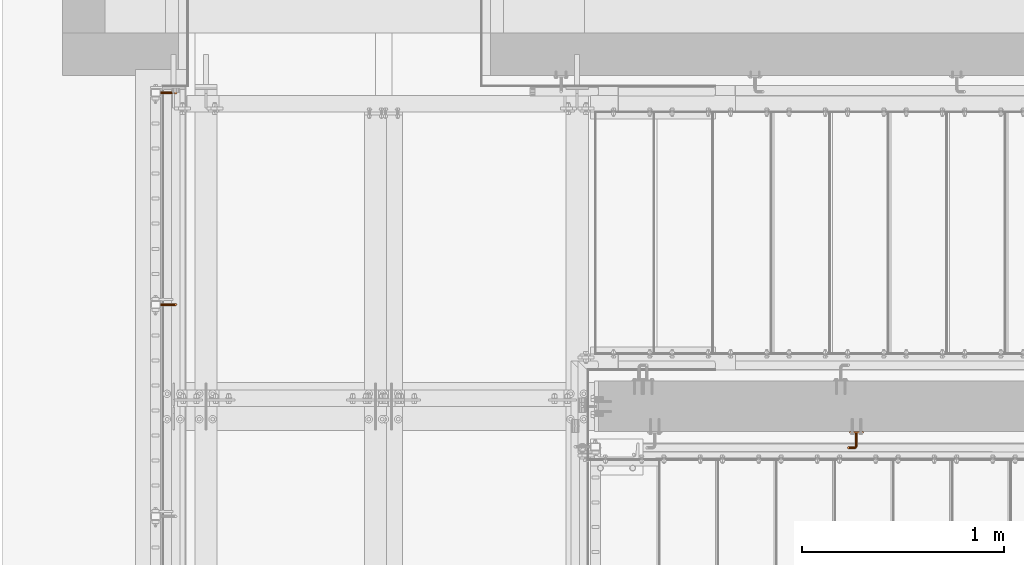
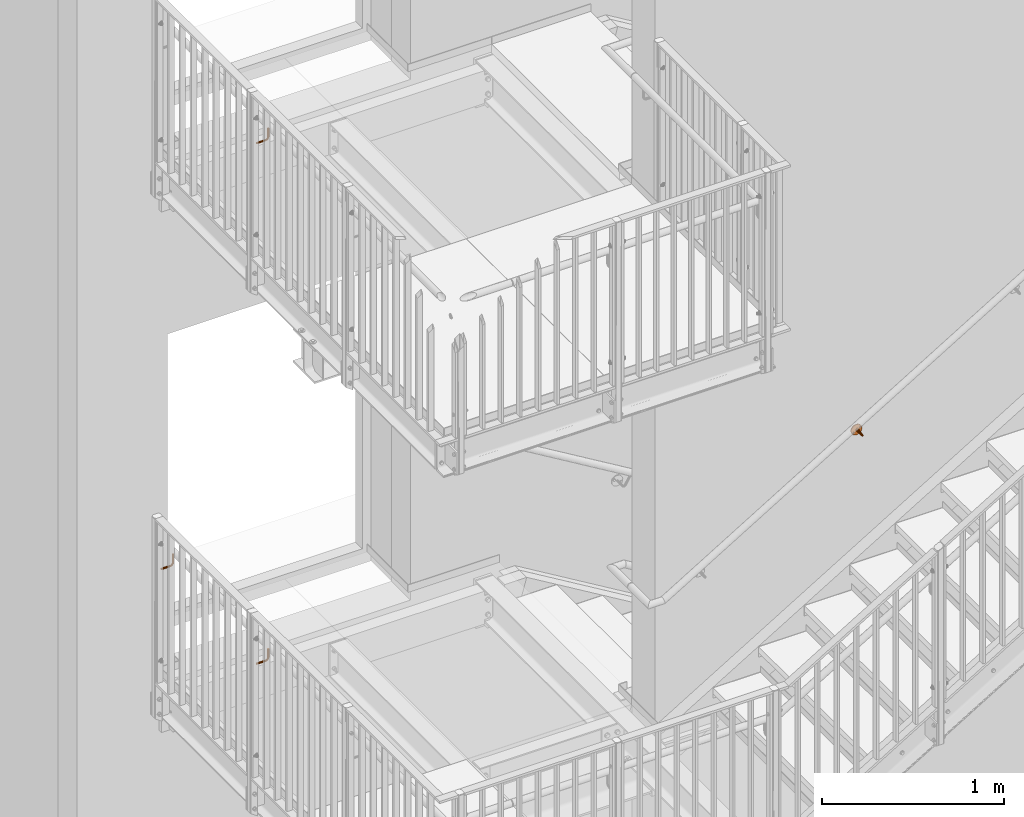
# One storey, part 376 of 410: 4 proxies.
"""IFC2X3 building model written with IfcOpenShell, lengths in millimetres."""

from ifc_helpers import new_model, entity, si_unit, converted_unit, origin_with_axes, place, context, project, spatial, faceted_brep, element, save


model = new_model("IFC2X3")

# Units and contexts
model_context = context("Model", 3, precision=1e-09, world=origin_with_axes())
ifc_project = project(units=[si_unit("LENGTHUNIT", "METRE", prefix="MILLI"), si_unit("AREAUNIT", "SQUARE_METRE"), si_unit("VOLUMEUNIT", "CUBIC_METRE"), converted_unit("PLANEANGLEUNIT", "DEGREE", entity("IfcPlaneAngleMeasure", 0.01745329), si_unit("PLANEANGLEUNIT", "RADIAN"), dimensions=[0, 0, 0, 0, 0, 0, 0])], contexts=[model_context])

# Site, building, storey
site_placement = place(None, origin_with_axes())
site = spatial("IfcSite", under=ifc_project, at=site_placement, Name="mKR Teilneubau & Sanierung BA1 - Ostfildern", CompositionType="ELEMENT")
building_placement = place(site_placement, origin_with_axes())
building = spatial("IfcBuilding", under=site, at=building_placement, Name="Struktur 1", CompositionType="ELEMENT")
storey_placement = place(building_placement, origin_with_axes())
storey = spatial("IfcBuildingStorey", under=building, at=storey_placement, Name="Default Storey", CompositionType="ELEMENT", Elevation=0.0)

# Proxies
proxy_1_placement = place(None, origin_with_axes())
element("IfcBuildingElementProxy", 1, at=proxy_1_placement, inside=storey, ObjectType="-", context=model_context, shape_type="Brep", body=[
    faceted_brep([(-3817.9485317, 17484.999999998, 4738.6), (-3874.9485317, 17484.999999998, 4738.6), (-3874.9485317, 17481.999999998, 4737.796152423), (-3817.9485317, 17481.999999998, 4737.796152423), (-3874.9485317, 17490.19615242, 4729.6), (-3874.9485317, 17487.999999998, 4727.403847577), (-3874.9485317, 17484.999999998, 4726.6), (-3874.9485317, 17481.999999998, 4727.403847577), (-3874.9485317, 17479.803847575, 4729.6), (-3874.9485317, 17478.999999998, 4732.6), (-3874.9485317, 17479.803847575, 4735.6), (-3874.9485317, 17487.999999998, 4737.796152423), (-3874.9485317, 17490.19615242, 4735.6), (-3874.9485317, 17490.999999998, 4732.6), (-3817.9485317, 17487.999999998, 4737.796152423), (-3813.048711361, 17481.999999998, 4738.770787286), (-3813.356330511, 17484.999999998, 4739.51344561), (-3817.9485317, 17479.803847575, 4735.6), (-3813.048711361, 17487.999999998, 4738.770787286), (-3809.463250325, 17484.999999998, 4742.114718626), (-3808.894844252, 17487.999999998, 4741.546312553), (-3808.894844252, 17481.999999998, 4741.546312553), (-3812.208280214, 17479.803847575, 4736.741807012), (-3817.9485317, 17490.19615242, 4735.6), (-3806.861977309, 17484.999999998, 4746.007798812), (-3806.119318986, 17487.999999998, 4745.700179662), (-3805.144684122, 17487.999999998, 4750.6), (-3805.144684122, 17487.999999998, 4807.6), (-3802.9485317, 17490.19615242, 4807.6), (-3802.9485317, 17490.19615242, 4750.6), (-3805.9485317, 17484.999999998, 4750.6), (-3805.9485317, 17484.999999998, 4807.6), (-3817.9485317, 17478.999999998, 4732.6), (-3804.090338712, 17490.19615242, 4744.859748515), (-3812.208280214, 17490.19615242, 4736.741807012), (-3807.341929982, 17490.19615242, 4739.993398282), (-3796.9485317, 17479.803847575, 4807.6), (-3794.752379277, 17481.999999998, 4807.6), (-3793.9485317, 17484.999999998, 4807.6), (-3794.752379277, 17487.999999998, 4807.6), (-3796.9485317, 17490.19615242, 4807.6), (-3799.9485317, 17490.999999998, 4807.6), (-3805.144684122, 17481.999999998, 4807.6), (-3802.9485317, 17479.803847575, 4807.6), (-3799.9485317, 17478.999999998, 4807.6), (-3806.119318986, 17481.999999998, 4745.700179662), (-3811.060229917, 17478.999999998, 4733.970168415), (-3807.341929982, 17479.803847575, 4739.993398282), (-3817.9485317, 17490.999999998, 4732.6), (-3799.9485317, 17490.999999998, 4750.6), (-3805.144684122, 17481.999999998, 4750.6), (-3817.9485317, 17479.803847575, 4729.6), (-3801.318700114, 17490.999999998, 4743.711698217), (-3811.060229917, 17490.999999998, 4733.970168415), (-3805.220609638, 17490.999999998, 4737.872077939), (-3804.090338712, 17479.803847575, 4744.859748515), (-3809.91217962, 17479.803847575, 4731.198529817), (-3805.220609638, 17478.999999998, 4737.872077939), (-3817.9485317, 17481.999999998, 4727.403847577), (-3817.9485317, 17484.999999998, 4726.6), (-3817.9485317, 17487.999999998, 4727.403847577), (-3817.9485317, 17490.19615242, 4729.6), (-3796.9485317, 17490.19615242, 4750.6), (-3802.9485317, 17479.803847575, 4750.6), (-3798.547061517, 17490.19615242, 4742.56364792), (-3809.91217962, 17490.19615242, 4731.198529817), (-3803.099289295, 17490.19615242, 4735.750757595), (-3801.318700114, 17478.999999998, 4743.711698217), (-3809.071748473, 17481.999999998, 4729.169549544), (-3803.099289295, 17479.803847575, 4735.750757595), (-3808.764129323, 17484.999999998, 4728.42689122), (-3809.071748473, 17487.999999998, 4729.169549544), (-3794.752379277, 17487.999999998, 4750.6), (-3799.9485317, 17478.999999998, 4750.6), (-3796.518081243, 17487.999999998, 4741.723216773), (-3801.546375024, 17487.999999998, 4734.197843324), (-3798.547061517, 17479.803847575, 4742.56364792), (-3801.546375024, 17481.999999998, 4734.197843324), (-3793.9485317, 17484.999999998, 4750.6), (-3800.977968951, 17484.999999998, 4733.629437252), (-3796.9485317, 17479.803847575, 4750.6), (-3795.775422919, 17484.999999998, 4741.415597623), (-3796.518081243, 17481.999999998, 4741.723216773), (-3794.752379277, 17481.999999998, 4750.6)], [[[0, 1, 2, 3]], [[4, 5, 6, 7, 8, 9, 10, 2, 1, 11, 12, 13]], [[1, 0, 14, 11]], [[0, 3, 15, 16]], [[3, 2, 10, 17]], [[16, 18, 14, 0]], [[19, 20, 18, 16]], [[16, 15, 21, 19]], [[3, 17, 22, 15]], [[11, 14, 23, 12]], [[20, 19, 24, 25]], [[26, 27, 28, 29]], [[27, 26, 30, 31]], [[17, 10, 9, 32]], [[26, 29, 33, 25]], [[18, 34, 23, 14]], [[20, 35, 34, 18]], [[25, 33, 35, 20]], [[36, 37, 38, 39, 40, 41, 28, 27, 31, 42, 43, 44]], [[25, 24, 30, 26]], [[19, 21, 45, 24]], [[17, 32, 46, 22]], [[15, 22, 47, 21]], [[12, 23, 48, 13]], [[29, 28, 41, 49]], [[31, 30, 50, 42]], [[32, 9, 8, 51]], [[29, 49, 52, 33]], [[34, 53, 48, 23]], [[35, 54, 53, 34]], [[33, 52, 54, 35]], [[24, 45, 50, 30]], [[21, 47, 55, 45]], [[32, 51, 56, 46]], [[22, 46, 57, 47]], [[7, 58, 51, 8]], [[6, 59, 58, 7]], [[5, 60, 59, 6]], [[4, 61, 60, 5]], [[13, 48, 61, 4]], [[49, 41, 40, 62]], [[42, 50, 63, 43]], [[49, 62, 64, 52]], [[53, 65, 61, 48]], [[54, 66, 65, 53]], [[52, 64, 66, 54]], [[45, 55, 63, 50]], [[47, 57, 67, 55]], [[51, 58, 68, 56]], [[46, 56, 69, 57]], [[58, 59, 70, 68]], [[59, 60, 71, 70]], [[60, 61, 65, 71]], [[62, 40, 39, 72]], [[43, 63, 73, 44]], [[62, 72, 74, 64]], [[66, 75, 71, 65]], [[64, 74, 75, 66]], [[55, 67, 73, 63]], [[57, 69, 76, 67]], [[56, 68, 77, 69]], [[72, 39, 38, 78]], [[68, 70, 79, 77]], [[70, 71, 75, 79]], [[44, 73, 80, 36]], [[72, 78, 81, 74]], [[74, 81, 79, 75]], [[67, 76, 80, 73]], [[69, 77, 82, 76]], [[78, 38, 37, 83]], [[77, 79, 81, 82]], [[36, 80, 83, 37]], [[78, 83, 82, 81]], [[76, 82, 83, 80]]]),
])
proxy_2_placement = place(None, origin_with_axes())
element("IfcBuildingElementProxy", 2, at=proxy_2_placement, inside=storey, ObjectType="-", context=model_context, shape_type="Brep", body=[
    faceted_brep([(-3817.9485317, 18534.999999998, 4738.6), (-3874.9485317, 18534.999999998, 4738.6), (-3874.9485317, 18531.999999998, 4737.796152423), (-3817.9485317, 18531.999999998, 4737.796152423), (-3874.9485317, 18540.19615242, 4729.6), (-3874.9485317, 18537.999999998, 4727.403847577), (-3874.9485317, 18534.999999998, 4726.6), (-3874.9485317, 18531.999999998, 4727.403847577), (-3874.9485317, 18529.803847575, 4729.6), (-3874.9485317, 18528.999999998, 4732.6), (-3874.9485317, 18529.803847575, 4735.6), (-3874.9485317, 18537.999999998, 4737.796152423), (-3874.9485317, 18540.19615242, 4735.6), (-3874.9485317, 18540.999999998, 4732.6), (-3817.9485317, 18537.999999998, 4737.796152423), (-3813.048711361, 18531.999999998, 4738.770787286), (-3813.356330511, 18534.999999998, 4739.51344561), (-3817.9485317, 18529.803847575, 4735.6), (-3813.048711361, 18537.999999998, 4738.770787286), (-3809.463250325, 18534.999999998, 4742.114718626), (-3808.894844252, 18537.999999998, 4741.546312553), (-3808.894844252, 18531.999999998, 4741.546312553), (-3812.208280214, 18529.803847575, 4736.741807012), (-3817.9485317, 18540.19615242, 4735.6), (-3806.861977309, 18534.999999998, 4746.007798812), (-3806.119318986, 18537.999999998, 4745.700179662), (-3805.144684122, 18537.999999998, 4750.6), (-3805.144684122, 18537.999999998, 4807.6), (-3802.9485317, 18540.19615242, 4807.6), (-3802.9485317, 18540.19615242, 4750.6), (-3805.9485317, 18534.999999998, 4750.6), (-3805.9485317, 18534.999999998, 4807.6), (-3817.9485317, 18528.999999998, 4732.6), (-3804.090338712, 18540.19615242, 4744.859748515), (-3812.208280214, 18540.19615242, 4736.741807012), (-3807.341929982, 18540.19615242, 4739.993398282), (-3796.9485317, 18529.803847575, 4807.6), (-3794.752379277, 18531.999999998, 4807.6), (-3793.9485317, 18534.999999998, 4807.6), (-3794.752379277, 18537.999999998, 4807.6), (-3796.9485317, 18540.19615242, 4807.6), (-3799.9485317, 18540.999999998, 4807.6), (-3805.144684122, 18531.999999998, 4807.6), (-3802.9485317, 18529.803847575, 4807.6), (-3799.9485317, 18528.999999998, 4807.6), (-3806.119318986, 18531.999999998, 4745.700179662), (-3811.060229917, 18528.999999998, 4733.970168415), (-3807.341929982, 18529.803847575, 4739.993398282), (-3817.9485317, 18540.999999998, 4732.6), (-3799.9485317, 18540.999999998, 4750.6), (-3805.144684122, 18531.999999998, 4750.6), (-3817.9485317, 18529.803847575, 4729.6), (-3801.318700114, 18540.999999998, 4743.711698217), (-3811.060229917, 18540.999999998, 4733.970168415), (-3805.220609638, 18540.999999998, 4737.872077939), (-3804.090338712, 18529.803847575, 4744.859748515), (-3809.91217962, 18529.803847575, 4731.198529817), (-3805.220609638, 18528.999999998, 4737.872077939), (-3817.9485317, 18531.999999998, 4727.403847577), (-3817.9485317, 18534.999999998, 4726.6), (-3817.9485317, 18537.999999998, 4727.403847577), (-3817.9485317, 18540.19615242, 4729.6), (-3796.9485317, 18540.19615242, 4750.6), (-3802.9485317, 18529.803847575, 4750.6), (-3798.547061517, 18540.19615242, 4742.56364792), (-3809.91217962, 18540.19615242, 4731.198529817), (-3803.099289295, 18540.19615242, 4735.750757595), (-3801.318700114, 18528.999999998, 4743.711698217), (-3809.071748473, 18531.999999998, 4729.169549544), (-3803.099289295, 18529.803847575, 4735.750757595), (-3808.764129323, 18534.999999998, 4728.42689122), (-3809.071748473, 18537.999999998, 4729.169549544), (-3794.752379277, 18537.999999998, 4750.6), (-3799.9485317, 18528.999999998, 4750.6), (-3796.518081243, 18537.999999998, 4741.723216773), (-3801.546375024, 18537.999999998, 4734.197843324), (-3798.547061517, 18529.803847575, 4742.56364792), (-3801.546375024, 18531.999999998, 4734.197843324), (-3793.9485317, 18534.999999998, 4750.6), (-3800.977968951, 18534.999999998, 4733.629437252), (-3796.9485317, 18529.803847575, 4750.6), (-3795.775422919, 18534.999999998, 4741.415597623), (-3796.518081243, 18531.999999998, 4741.723216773), (-3794.752379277, 18531.999999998, 4750.6)], [[[0, 1, 2, 3]], [[4, 5, 6, 7, 8, 9, 10, 2, 1, 11, 12, 13]], [[1, 0, 14, 11]], [[0, 3, 15, 16]], [[3, 2, 10, 17]], [[16, 18, 14, 0]], [[19, 20, 18, 16]], [[16, 15, 21, 19]], [[3, 17, 22, 15]], [[11, 14, 23, 12]], [[20, 19, 24, 25]], [[26, 27, 28, 29]], [[27, 26, 30, 31]], [[17, 10, 9, 32]], [[26, 29, 33, 25]], [[18, 34, 23, 14]], [[20, 35, 34, 18]], [[25, 33, 35, 20]], [[36, 37, 38, 39, 40, 41, 28, 27, 31, 42, 43, 44]], [[25, 24, 30, 26]], [[19, 21, 45, 24]], [[17, 32, 46, 22]], [[15, 22, 47, 21]], [[12, 23, 48, 13]], [[29, 28, 41, 49]], [[31, 30, 50, 42]], [[32, 9, 8, 51]], [[29, 49, 52, 33]], [[34, 53, 48, 23]], [[35, 54, 53, 34]], [[33, 52, 54, 35]], [[24, 45, 50, 30]], [[21, 47, 55, 45]], [[32, 51, 56, 46]], [[22, 46, 57, 47]], [[7, 58, 51, 8]], [[6, 59, 58, 7]], [[5, 60, 59, 6]], [[4, 61, 60, 5]], [[13, 48, 61, 4]], [[49, 41, 40, 62]], [[42, 50, 63, 43]], [[49, 62, 64, 52]], [[53, 65, 61, 48]], [[54, 66, 65, 53]], [[52, 64, 66, 54]], [[45, 55, 63, 50]], [[47, 57, 67, 55]], [[51, 58, 68, 56]], [[46, 56, 69, 57]], [[58, 59, 70, 68]], [[59, 60, 71, 70]], [[60, 61, 65, 71]], [[62, 40, 39, 72]], [[43, 63, 73, 44]], [[62, 72, 74, 64]], [[66, 75, 71, 65]], [[64, 74, 75, 66]], [[55, 67, 73, 63]], [[57, 69, 76, 67]], [[56, 68, 77, 69]], [[72, 39, 38, 78]], [[68, 70, 79, 77]], [[70, 71, 75, 79]], [[44, 73, 80, 36]], [[72, 78, 81, 74]], [[74, 81, 79, 75]], [[67, 76, 80, 73]], [[69, 77, 82, 76]], [[78, 38, 37, 83]], [[77, 79, 81, 82]], [[36, 80, 83, 37]], [[78, 83, 82, 81]], [[76, 82, 83, 80]]]),
])
proxy_3_placement = place(None, origin_with_axes())
element("IfcBuildingElementProxy", 3, at=proxy_3_placement, inside=storey, ObjectType="-", context=model_context, shape_type="Brep", body=[
    faceted_brep([(-3817.9485317, 17484.999999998, 8238.6), (-3874.9485317, 17484.999999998, 8238.6), (-3874.9485317, 17481.999999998, 8237.796152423), (-3817.9485317, 17481.999999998, 8237.796152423), (-3874.9485317, 17490.19615242, 8229.6), (-3874.9485317, 17487.999999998, 8227.403847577), (-3874.9485317, 17484.999999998, 8226.6), (-3874.9485317, 17481.999999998, 8227.403847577), (-3874.9485317, 17479.803847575, 8229.6), (-3874.9485317, 17478.999999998, 8232.6), (-3874.9485317, 17479.803847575, 8235.6), (-3874.9485317, 17487.999999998, 8237.796152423), (-3874.9485317, 17490.19615242, 8235.6), (-3874.9485317, 17490.999999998, 8232.6), (-3817.9485317, 17487.999999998, 8237.796152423), (-3813.048711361, 17481.999999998, 8238.770787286), (-3813.356330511, 17484.999999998, 8239.51344561), (-3817.9485317, 17479.803847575, 8235.6), (-3813.048711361, 17487.999999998, 8238.770787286), (-3809.463250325, 17484.999999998, 8242.114718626), (-3808.894844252, 17487.999999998, 8241.546312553), (-3808.894844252, 17481.999999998, 8241.546312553), (-3812.208280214, 17479.803847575, 8236.741807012), (-3817.9485317, 17490.19615242, 8235.6), (-3806.861977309, 17484.999999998, 8246.007798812), (-3806.119318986, 17487.999999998, 8245.700179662), (-3805.144684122, 17487.999999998, 8250.6), (-3805.144684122, 17487.999999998, 8307.6), (-3802.9485317, 17490.19615242, 8307.6), (-3802.9485317, 17490.19615242, 8250.6), (-3805.9485317, 17484.999999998, 8250.6), (-3805.9485317, 17484.999999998, 8307.6), (-3817.9485317, 17478.999999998, 8232.6), (-3804.090338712, 17490.19615242, 8244.859748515), (-3812.208280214, 17490.19615242, 8236.741807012), (-3807.341929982, 17490.19615242, 8239.993398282), (-3796.9485317, 17479.803847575, 8307.6), (-3794.752379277, 17481.999999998, 8307.6), (-3793.9485317, 17484.999999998, 8307.6), (-3794.752379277, 17487.999999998, 8307.6), (-3796.9485317, 17490.19615242, 8307.6), (-3799.9485317, 17490.999999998, 8307.6), (-3805.144684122, 17481.999999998, 8307.6), (-3802.9485317, 17479.803847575, 8307.6), (-3799.9485317, 17478.999999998, 8307.6), (-3806.119318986, 17481.999999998, 8245.700179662), (-3811.060229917, 17478.999999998, 8233.970168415), (-3807.341929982, 17479.803847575, 8239.993398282), (-3817.9485317, 17490.999999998, 8232.6), (-3799.9485317, 17490.999999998, 8250.6), (-3805.144684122, 17481.999999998, 8250.6), (-3817.9485317, 17479.803847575, 8229.6), (-3801.318700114, 17490.999999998, 8243.711698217), (-3811.060229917, 17490.999999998, 8233.970168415), (-3805.220609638, 17490.999999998, 8237.872077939), (-3804.090338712, 17479.803847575, 8244.859748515), (-3809.91217962, 17479.803847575, 8231.198529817), (-3805.220609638, 17478.999999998, 8237.872077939), (-3817.9485317, 17481.999999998, 8227.403847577), (-3817.9485317, 17484.999999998, 8226.6), (-3817.9485317, 17487.999999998, 8227.403847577), (-3817.9485317, 17490.19615242, 8229.6), (-3796.9485317, 17490.19615242, 8250.6), (-3802.9485317, 17479.803847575, 8250.6), (-3798.547061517, 17490.19615242, 8242.56364792), (-3809.91217962, 17490.19615242, 8231.198529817), (-3803.099289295, 17490.19615242, 8235.750757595), (-3801.318700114, 17478.999999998, 8243.711698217), (-3809.071748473, 17481.999999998, 8229.169549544), (-3803.099289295, 17479.803847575, 8235.750757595), (-3808.764129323, 17484.999999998, 8228.42689122), (-3809.071748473, 17487.999999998, 8229.169549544), (-3794.752379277, 17487.999999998, 8250.6), (-3799.9485317, 17478.999999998, 8250.6), (-3796.518081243, 17487.999999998, 8241.723216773), (-3801.546375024, 17487.999999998, 8234.197843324), (-3798.547061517, 17479.803847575, 8242.56364792), (-3801.546375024, 17481.999999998, 8234.197843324), (-3793.9485317, 17484.999999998, 8250.6), (-3800.977968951, 17484.999999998, 8233.629437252), (-3796.9485317, 17479.803847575, 8250.6), (-3795.775422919, 17484.999999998, 8241.415597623), (-3796.518081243, 17481.999999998, 8241.723216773), (-3794.752379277, 17481.999999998, 8250.6)], [[[0, 1, 2, 3]], [[4, 5, 6, 7, 8, 9, 10, 2, 1, 11, 12, 13]], [[1, 0, 14, 11]], [[0, 3, 15, 16]], [[3, 2, 10, 17]], [[16, 18, 14, 0]], [[19, 20, 18, 16]], [[16, 15, 21, 19]], [[3, 17, 22, 15]], [[11, 14, 23, 12]], [[20, 19, 24, 25]], [[26, 27, 28, 29]], [[27, 26, 30, 31]], [[17, 10, 9, 32]], [[26, 29, 33, 25]], [[18, 34, 23, 14]], [[20, 35, 34, 18]], [[25, 33, 35, 20]], [[36, 37, 38, 39, 40, 41, 28, 27, 31, 42, 43, 44]], [[25, 24, 30, 26]], [[19, 21, 45, 24]], [[17, 32, 46, 22]], [[15, 22, 47, 21]], [[12, 23, 48, 13]], [[29, 28, 41, 49]], [[31, 30, 50, 42]], [[32, 9, 8, 51]], [[29, 49, 52, 33]], [[34, 53, 48, 23]], [[35, 54, 53, 34]], [[33, 52, 54, 35]], [[24, 45, 50, 30]], [[21, 47, 55, 45]], [[32, 51, 56, 46]], [[22, 46, 57, 47]], [[7, 58, 51, 8]], [[6, 59, 58, 7]], [[5, 60, 59, 6]], [[4, 61, 60, 5]], [[13, 48, 61, 4]], [[49, 41, 40, 62]], [[42, 50, 63, 43]], [[49, 62, 64, 52]], [[53, 65, 61, 48]], [[54, 66, 65, 53]], [[52, 64, 66, 54]], [[45, 55, 63, 50]], [[47, 57, 67, 55]], [[51, 58, 68, 56]], [[46, 56, 69, 57]], [[58, 59, 70, 68]], [[59, 60, 71, 70]], [[60, 61, 65, 71]], [[62, 40, 39, 72]], [[43, 63, 73, 44]], [[62, 72, 74, 64]], [[66, 75, 71, 65]], [[64, 74, 75, 66]], [[55, 67, 73, 63]], [[57, 69, 76, 67]], [[56, 68, 77, 69]], [[72, 39, 38, 78]], [[68, 70, 79, 77]], [[70, 71, 75, 79]], [[44, 73, 80, 36]], [[72, 78, 81, 74]], [[74, 81, 79, 75]], [[67, 76, 80, 73]], [[69, 77, 82, 76]], [[78, 38, 37, 83]], [[77, 79, 81, 82]], [[36, 80, 83, 37]], [[78, 83, 82, 81]], [[76, 82, 83, 80]]]),
])
proxy_4_placement = place(None, origin_with_axes())
element("IfcBuildingElementProxy", 4, at=proxy_4_placement, inside=storey, ObjectType="-", context=model_context, shape_type="Brep", body=[
    faceted_brep([(-451.904023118, 16855.0, 5471.541067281), (-451.904023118, 16849.0, 5471.541067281), (-451.293616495, 16849.0, 5469.427483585), (-451.293616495, 16855.0, 5469.427483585), (-424.998678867, 16849.0, 5519.517553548), (-436.423700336, 16849.0, 5518.028714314), (-446.746257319, 16849.0, 5512.910846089), (-454.847740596, 16849.0, 5504.718549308), (-459.850228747, 16849.0, 5494.339586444), (-461.211624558, 16849.0, 5482.898679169), (-458.78439967, 16849.0, 5471.63562731), (-452.831581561, 16849.0, 5461.770957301), (-443.998250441, 16849.0, 5454.373659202), (-433.2416348, 16849.0, 5450.245345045), (-421.727380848, 16849.0, 5449.833381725), (-410.703236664, 16849.0, 5453.18241186), (-401.363839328, 16849.0, 5459.92951607), (-394.721257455, 16849.0, 5469.343540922), (-391.495317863, 16849.0, 5480.404330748), (-392.035601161, 16849.0, 5491.913277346), (-396.283559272, 16849.0, 5502.623207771), (-403.778860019, 16849.0, 5511.373534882), (-413.709271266, 16849.0, 5517.216024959), (-409.094640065, 16849.0, 5497.374315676), (-408.566475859, 16849.0, 5499.509936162), (-407.041261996, 16849.0, 5501.095355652), (-404.927678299, 16849.0, 5501.705762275), (-402.792057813, 16849.0, 5501.177598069), (-401.206638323, 16849.0, 5499.652384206), (-400.5962317, 16849.0, 5497.538800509), (-401.124395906, 16849.0, 5495.403180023), (-402.649609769, 16849.0, 5493.817760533), (-404.763193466, 16849.0, 5493.20735391), (-406.898813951, 16849.0, 5493.735518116), (-408.484233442, 16849.0, 5495.260731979), (-451.375858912, 16849.0, 5473.676687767), (-449.850645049, 16849.0, 5475.262107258), (-447.737061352, 16849.0, 5475.872513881), (-445.601440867, 16849.0, 5475.344349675), (-444.016021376, 16849.0, 5473.819135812), (-443.405614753, 16849.0, 5471.705552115), (-443.933778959, 16849.0, 5469.569931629), (-445.458992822, 16849.0, 5467.984512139), (-447.572576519, 16849.0, 5467.374105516), (-449.708197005, 16849.0, 5467.902269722), (-451.375858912, 16855.0, 5473.676687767), (-394.721257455, 16855.0, 5469.343540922), (-401.363839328, 16855.0, 5459.92951607), (-410.703236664, 16855.0, 5453.18241186), (-421.727380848, 16855.0, 5449.833381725), (-433.2416348, 16855.0, 5450.245345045), (-443.998250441, 16855.0, 5454.373659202), (-452.831581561, 16855.0, 5461.770957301), (-458.78439967, 16855.0, 5471.63562731), (-461.211624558, 16855.0, 5482.898679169), (-459.850228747, 16855.0, 5494.339586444), (-454.847740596, 16855.0, 5504.718549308), (-446.746257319, 16855.0, 5512.910846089), (-436.423700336, 16855.0, 5518.028714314), (-424.998678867, 16855.0, 5519.517553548), (-413.709271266, 16855.0, 5517.216024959), (-403.778860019, 16855.0, 5511.373534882), (-396.283559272, 16855.0, 5502.623207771), (-392.035601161, 16855.0, 5491.913277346), (-391.495317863, 16855.0, 5480.404330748), (-449.708197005, 16855.0, 5467.902269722), (-447.572576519, 16855.0, 5467.374105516), (-445.458992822, 16855.0, 5467.984512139), (-443.933778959, 16855.0, 5469.569931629), (-443.405614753, 16855.0, 5471.705552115), (-444.016021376, 16855.0, 5473.819135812), (-445.601440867, 16855.0, 5475.344349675), (-447.737061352, 16855.0, 5475.872513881), (-449.850645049, 16855.0, 5475.262107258), (-406.898813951, 16855.0, 5493.735518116), (-404.763193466, 16855.0, 5493.20735391), (-402.649609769, 16855.0, 5493.817760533), (-401.124395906, 16855.0, 5495.403180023), (-400.5962317, 16855.0, 5497.538800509), (-401.206638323, 16855.0, 5499.652384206), (-402.792057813, 16855.0, 5501.177598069), (-404.927678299, 16855.0, 5501.705762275), (-407.041261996, 16855.0, 5501.095355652), (-408.566475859, 16855.0, 5499.509936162), (-409.094640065, 16855.0, 5497.374315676), (-408.484233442, 16855.0, 5495.260731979)], [[[0, 1, 2, 3]], [[4, 5, 6, 7, 8, 9, 10, 11, 12, 13, 14, 15, 16, 17, 18, 19, 20, 21, 22], [23, 24, 25, 26, 27, 28, 29, 30, 31, 32, 33, 34], [2, 1, 35, 36, 37, 38, 39, 40, 41, 42, 43, 44]], [[1, 0, 45, 35]], [[46, 47, 48, 49, 50, 51, 52, 53, 54, 55, 56, 57, 58, 59, 60, 61, 62, 63, 64], [0, 3, 65, 66, 67, 68, 69, 70, 71, 72, 73, 45], [74, 75, 76, 77, 78, 79, 80, 81, 82, 83, 84, 85]], [[3, 2, 44, 65]], [[10, 53, 52, 11]], [[65, 44, 43, 66]], [[35, 45, 73, 36]], [[53, 10, 9, 54]], [[66, 43, 42, 67]], [[11, 52, 51, 12]], [[36, 73, 72, 37]], [[8, 55, 54, 9]], [[67, 42, 41, 68]], [[55, 8, 7, 56]], [[50, 13, 12, 51]], [[37, 72, 71, 38]], [[13, 50, 49, 14]], [[68, 41, 40, 69]], [[38, 71, 70, 39]], [[56, 7, 6, 57]], [[69, 40, 39, 70]], [[14, 49, 48, 15]], [[57, 6, 5, 58]], [[34, 85, 84, 23]], [[15, 48, 47, 16]], [[85, 34, 33, 74]], [[23, 84, 83, 24]], [[58, 5, 4, 59]], [[16, 47, 46, 17]], [[74, 33, 32, 75]], [[24, 83, 82, 25]], [[59, 4, 22, 60]], [[17, 46, 64, 18]], [[75, 32, 31, 76]], [[25, 82, 81, 26]], [[60, 22, 21, 61]], [[18, 64, 63, 19]], [[76, 31, 30, 77]], [[20, 62, 61, 21]], [[26, 81, 80, 27]], [[62, 20, 19, 63]], [[77, 30, 29, 78]], [[27, 80, 79, 28]], [[78, 29, 28, 79]]]),
    faceted_brep([(-421.113001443, 16793.0, 5487.639923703), (-421.113001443, 16849.0, 5487.639923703), (-423.351240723, 16849.0, 5489.793166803), (-423.351240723, 16793.0, 5489.793166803), (-431.101215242, 16772.0, 5502.635981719), (-460.551118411, 16772.0, 5551.4386784), (-462.431437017, 16769.803847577, 5550.304003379), (-432.981533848, 16769.803847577, 5501.501306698), (-430.412970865, 16775.0, 5503.051301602), (-459.862874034, 16775.0, 5551.853998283), (-428.395210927, 16771.569549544, 5493.901114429), (-426.949113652, 16773.598529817, 5495.755356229), (-426.134020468, 16849.0, 5478.541057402), (-429.149014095, 16849.0, 5479.286700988), (-431.387253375, 16849.0, 5481.439944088), (-432.249003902, 16849.0, 5484.423826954), (-431.503360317, 16849.0, 5487.438820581), (-429.350117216, 16849.0, 5489.677059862), (-426.36623435, 16849.0, 5490.538810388), (-420.251250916, 16849.0, 5484.656040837), (-420.996894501, 16849.0, 5481.64104721), (-423.150137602, 16849.0, 5479.402807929), (-420.251250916, 16793.0, 5484.656040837), (-423.941172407, 16787.259748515, 5490.770767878), (-421.820919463, 16786.111698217, 5488.813044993), (-467.568562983, 16780.196152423, 5547.204013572), (-469.44888159, 16778.0, 5546.069338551), (-470.137125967, 16775.0, 5545.654018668), (-469.44888159, 16772.0, 5546.069338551), (-467.568562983, 16769.803847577, 5547.204013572), (-465.0, 16769.0, 5548.754008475), (-460.551118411, 16778.0, 5551.4386784), (-462.431437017, 16780.196152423, 5550.304003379), (-465.0, 16781.0, 5548.754008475), (-426.854026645, 16776.370168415, 5497.15362261), (-423.429131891, 16778.150757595, 5489.922243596), (-423.836899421, 16780.272077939, 5492.153811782), (-426.36623435, 16793.0, 5490.538810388), (-421.077155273, 16784.96364792, 5486.024682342), (-435.550096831, 16769.0, 5499.951311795), (-431.101215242, 16778.0, 5502.635981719), (-430.804837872, 16770.82689122, 5492.087739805), (-424.507114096, 16776.597843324, 5487.457982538), (-425.621155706, 16782.393398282, 5493.554740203), (-426.869794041, 16788.100179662, 5491.373280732), (-420.996894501, 16793.0, 5481.64104721), (-428.135428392, 16779.141807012, 5497.721249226), (-429.350117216, 16793.0, 5489.677059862), (-421.909170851, 16784.123216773, 5483.152819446), (-438.118659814, 16769.803847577, 5498.401316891), (-432.981533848, 16780.196152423, 5501.501306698), (-433.532336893, 16771.569549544, 5490.801124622), (-426.782001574, 16776.029437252, 5485.421325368), (-428.303810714, 16783.946312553, 5493.749651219), (-429.822062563, 16788.407798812, 5490.459140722), (-423.150137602, 16793.0, 5479.402807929), (-430.44996833, 16781.170787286, 5497.306140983), (-439.99897842, 16772.0, 5497.26664187), (-431.503360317, 16793.0, 5487.438820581), (-424.094028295, 16783.815597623, 5480.966969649), (-435.550096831, 16781.0, 5499.951311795), (-435.846876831, 16773.598529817, 5490.386016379), (-429.644240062, 16776.597843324, 5484.35799273), (-431.166049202, 16784.514718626, 5492.686318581), (-432.006920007, 16788.100179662, 5488.273290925), (-426.134020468, 16793.0, 5478.541057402), (-433.177467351, 16781.91344561, 5496.0195258), (-440.687222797, 16775.0, 5496.851321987), (-432.249003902, 16793.0, 5484.423826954), (-427.046296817, 16784.123216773, 5480.052829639), (-438.118659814, 16780.196152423, 5498.401316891), (-439.99897842, 16778.0, 5497.26664187), (-437.128278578, 16776.370168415, 5490.953642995), (-432.32689507, 16778.150757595, 5484.552903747), (-433.44093668, 16783.946312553, 5490.649661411), (-432.838935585, 16787.259748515, 5485.401428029), (-431.387253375, 16793.0, 5481.439944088), (-429.149014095, 16793.0, 5479.286700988), (-435.587094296, 16781.170787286, 5494.206151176), (-429.974918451, 16784.96364792, 5480.655342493), (-437.033191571, 16779.141807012, 5492.351909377), (-434.111151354, 16780.272077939, 5485.953832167), (-432.095171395, 16786.111698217, 5482.613065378), (-434.518918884, 16782.393398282, 5488.185400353)], [[[0, 1, 2, 3]], [[4, 5, 6, 7]], [[5, 4, 8, 9]], [[4, 7, 10, 11]], [[12, 13, 14, 15, 16, 17, 18, 2, 1, 19, 20, 21]], [[1, 0, 22, 19]], [[0, 3, 23, 24]], [[25, 26, 27, 28, 29, 30, 6, 5, 9, 31, 32, 33]], [[11, 34, 8, 4]], [[35, 36, 34, 11]], [[3, 2, 18, 37]], [[24, 38, 22, 0]], [[36, 35, 38, 24]], [[7, 6, 30, 39]], [[9, 8, 40, 31]], [[7, 39, 41, 10]], [[11, 10, 42, 35]], [[24, 23, 43, 36]], [[3, 37, 44, 23]], [[19, 22, 45, 20]], [[36, 43, 46, 34]], [[34, 46, 40, 8]], [[37, 18, 17, 47]], [[38, 48, 45, 22]], [[35, 42, 48, 38]], [[39, 30, 29, 49]], [[31, 40, 50, 32]], [[39, 49, 51, 41]], [[10, 41, 52, 42]], [[23, 44, 53, 43]], [[37, 47, 54, 44]], [[20, 45, 55, 21]], [[43, 53, 56, 46]], [[46, 56, 50, 40]], [[49, 29, 28, 57]], [[47, 17, 16, 58]], [[48, 59, 55, 45]], [[42, 52, 59, 48]], [[32, 50, 60, 33]], [[49, 57, 61, 51]], [[41, 51, 62, 52]], [[44, 54, 63, 53]], [[47, 58, 64, 54]], [[21, 55, 65, 12]], [[56, 66, 60, 50]], [[53, 63, 66, 56]], [[57, 28, 27, 67]], [[58, 16, 15, 68]], [[59, 69, 65, 55]], [[52, 62, 69, 59]], [[33, 60, 70, 25]], [[26, 71, 67, 27]], [[25, 70, 71, 26]], [[57, 67, 72, 61]], [[51, 61, 73, 62]], [[54, 64, 74, 63]], [[58, 68, 75, 64]], [[14, 76, 68, 15]], [[13, 77, 76, 14]], [[12, 65, 77, 13]], [[66, 78, 70, 60]], [[63, 74, 78, 66]], [[69, 79, 77, 65]], [[62, 73, 79, 69]], [[67, 71, 80, 72]], [[71, 70, 78, 80]], [[61, 72, 81, 73]], [[68, 76, 82, 75]], [[64, 75, 83, 74]], [[76, 77, 79, 82]], [[74, 83, 80, 78]], [[73, 81, 82, 79]], [[72, 80, 83, 81]], [[75, 82, 81, 83]]]),
])

save(model, "model.ifc")
